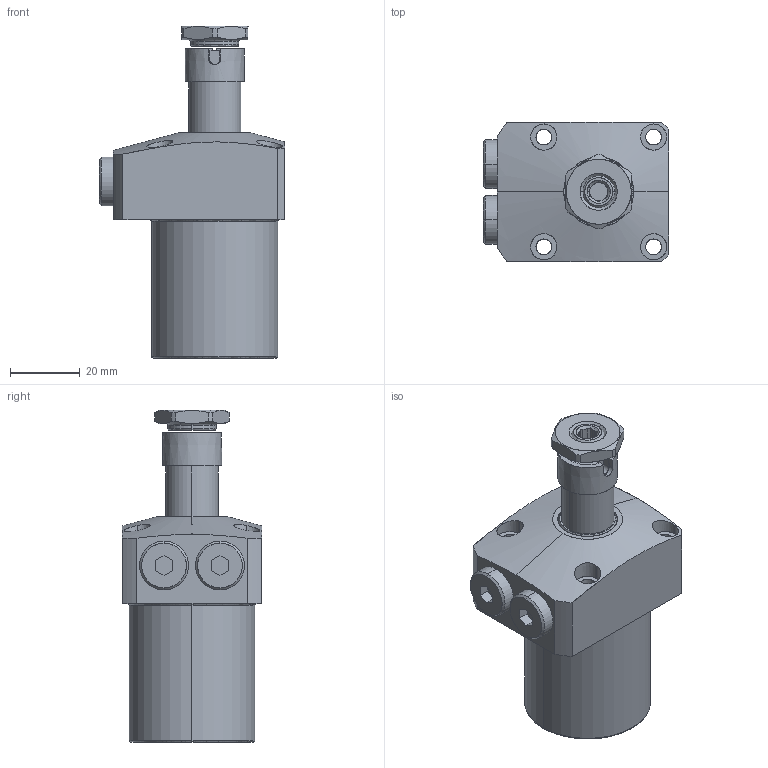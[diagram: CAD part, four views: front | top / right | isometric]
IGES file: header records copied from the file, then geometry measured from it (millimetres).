
Start section: SolidWorks IGES file using analytic representation for surfaces
Global section: file name: C:\Documents and Settings\nijil\My Documents\Clasys1\LV Series\36\0301-0081.IGS; native system: SolidWorks 2010; preprocessor: SolidWorks 2010; author: nijil; date: 130723.131549; units: millimetre
Bounding box: 53 x 40 x 95 mm (x, y, z)
Surface area: 16764.4 mm2 (no closed solid volume)
Topology: 0 solids, 0 shells, 178 faces, 3007 edges, 3007 vertices
Faces by surface type: revolution 91, bspline 87
